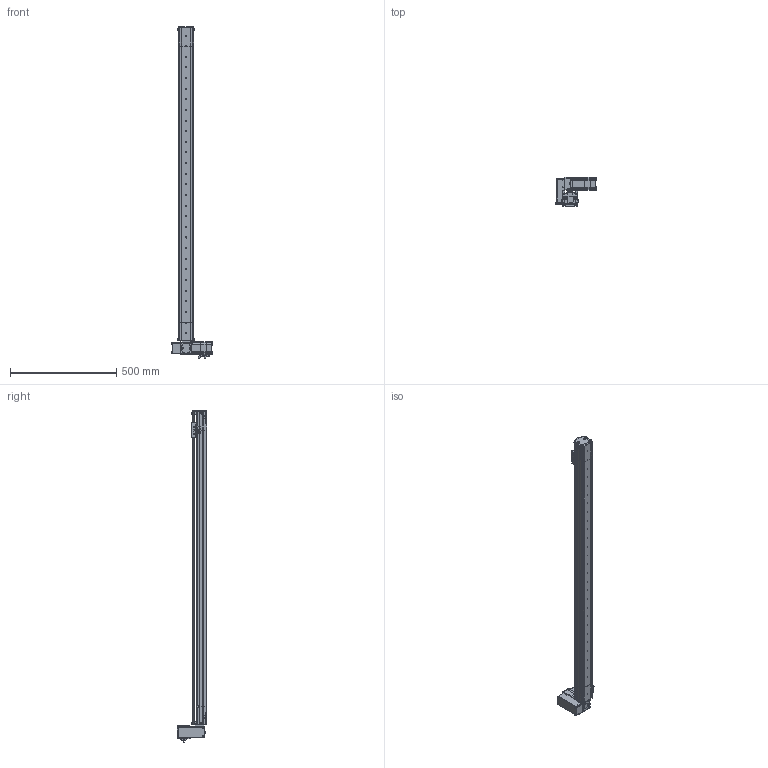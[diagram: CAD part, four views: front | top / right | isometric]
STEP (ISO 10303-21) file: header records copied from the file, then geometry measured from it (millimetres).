
FILE_DESCRIPTION (( 'STEP AP214' ), '1' );
FILE_NAME ('S07 TBN RT S1300.STEP', '2010-06-29T11:58:44', ( 'Conseil Régional Haute-Normandie' ), ( 'Conseil Régional Haute-Normandie' ), 'SwSTEP 2.0', 'SolidWorks 2010', '' );
FILE_SCHEMA (( 'AUTOMOTIVE_DESIGN' ));
Length unit declared in the file: millimetre
Products named in the file (41): Axe 60BLDC_Default; S07 TB tail (78)_Default; Vis M5 L16-2_Default; Cvis M5 L30_Default; VisM3_Default; Conecteur2 60BLDC_Default; Conecteur 60BLDC_Default; vis M5 L16_Default; Chariot; vis M5 L12_Default; Poulie_Default; T皻e de poulie_Default; guide; CHariot_Default; couroie tail_Default; corp tail TB_Default; couvercle tail TB; plaque de bout_Default; S07 TBN RT S1300; Couroie  course 1300_Default; Corp S07 course 1300_Default; Course C L1300_Default; corp moteur TB(146)_Default; S07 RT(146)_Default; couvercle S07 course 1300 ; cache t皻e axe_Default; couvercle moteur S07 TB; plaque de bout RT_Default; vis M5 L5_Default; cache t皻e_Default; Poulie head_Default; Plaque racord_Default; Couroie t皻e_Default; Pièce5^S07 RT(146); P1_Default; GMB 60 90 310_Default; renvoi RT_Default; P4_Default; P3 90A_Default; P2 90A_Default
Assembly tree (80 placements, depth 4):
  S07 TBN RT S1300
    CHariot_Default
      Chariot
      vis M5 L16_Default  x2
      guide
    Course C L1300_Default
      couvercle S07 course 1300 
      Corp S07 course 1300_Default
      Couroie  course 1300_Default
    S07 RT(146)_Default
      Cvis M5 L30_Default  x2
      Vis M5 L16-2_Default  x8
      vis M5 L12_Default  x6
      vis M5 L5_Default  x6
      corp moteur TB(146)_Default
      Poulie head_Default
      Plaque racord_Default
      Couroie t皻e_Default
      plaque de bout RT_Default
      cache t皻e_Default  x2
      couvercle moteur S07 TB
      renvoi RT_Default
      cache t皻e axe_Default
      GMB 60 90 310_Default
        P4_Default
        P2 90A_Default
        VisM3_Default  x12
        P3 90A_Default
        Conecteur 60BLDC_Default
        Axe 60BLDC_Default
        Conecteur2 60BLDC_Default
        P1_Default
    S07 TB tail (78)_Default
      corp tail TB_Default
      vis M5 L12_Default  x10
      plaque de bout_Default
      Poulie_Default
        Poulie_Default
        T皻e de poulie_Default
      couvercle tail TB
      couroie tail_Default
  Pièce5^S07 RT(146)
Bounding box: 190.2 x 139.5 x 1562 mm (x, y, z)
Volume: 3126584.1 mm3; surface area: 1353319.3 mm2
Topology: 102 solids, 102 shells, 3950 faces, 9822 edges, 6345 vertices
Faces by surface type: plane 2239, cylinder 781, bspline 677, cone 125, torus 124, sphere 4
Entity records: 167921 total; most frequent: CARTESIAN_POINT 75311, ORIENTED_EDGE 15556, DIRECTION 12439, EDGE_CURVE 7778, VERTEX_POINT 5133, VECTOR 5061, LINE 5061, AXIS2_PLACEMENT_3D 3689
